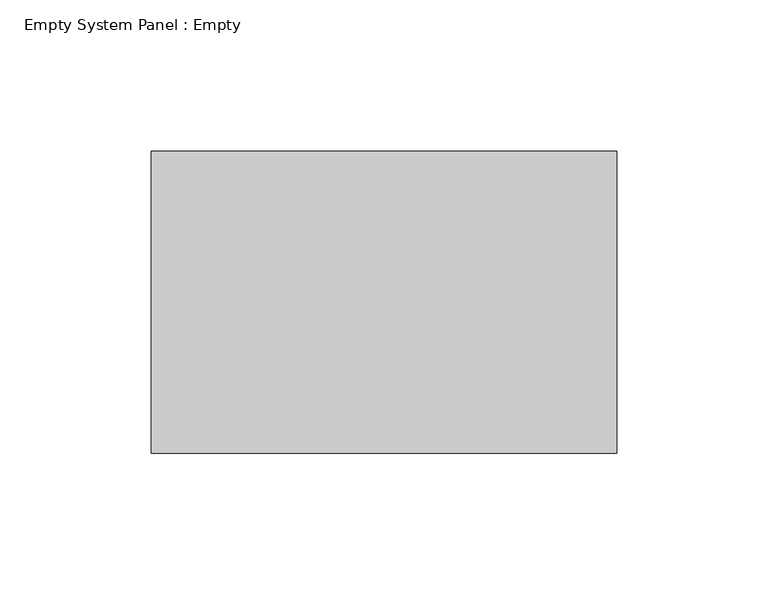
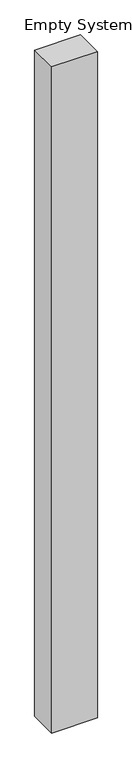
"""IFC4 building model written with IfcOpenShell, lengths in millimetres: plate geometry, Empty System Panel : Empty."""

from ifc_helpers import new_model, si_unit, origin, origin_with_axes, place, context, project, spatial, polyline, outline, extrude, source, transform, mapped, element, save


def empty_system_panel_empty_2b6e5872(model_context):
    return source(origin(), model_context, "Body", "SweptSolid", [
        extrude(outline(polyline([(77.0424493, -50.0), (-77.0424493, -50.0), (-77.0424493, 50.0), (77.0424493, 50.0), (77.0424493, -50.0)])), origin_with_axes(), (0.0, 0.0, 1.0), 2380.0),
    ])


if __name__ == "__main__":
    model = new_model("IFC4")
    model_context = context("Model", 3, world=origin())
    ifc_project = project(units=[si_unit("LENGTHUNIT", "METRE", prefix="MILLI")], contexts=[model_context])
    site = spatial("IfcSite", under=ifc_project)
    building = spatial("IfcBuilding", under=site)
    placement = place(None, origin())
    empty_system_panel_empty_shape = empty_system_panel_empty_2b6e5872(model_context)
    element("IfcPlate", 1, ObjectType="Empty System Panel : Empty", at=placement, inside=building, context=model_context, shape_type="MappedRepresentation", body=[
        mapped(empty_system_panel_empty_shape, transform((0.0, 0.0, 0.0), x_axis=(1.0, 0.0, 0.0), y_axis=(0.0, 1.0, 0.0), z_axis=(0.0, 0.0, 1.0))),
    ])
    save(model, "model.ifc")
